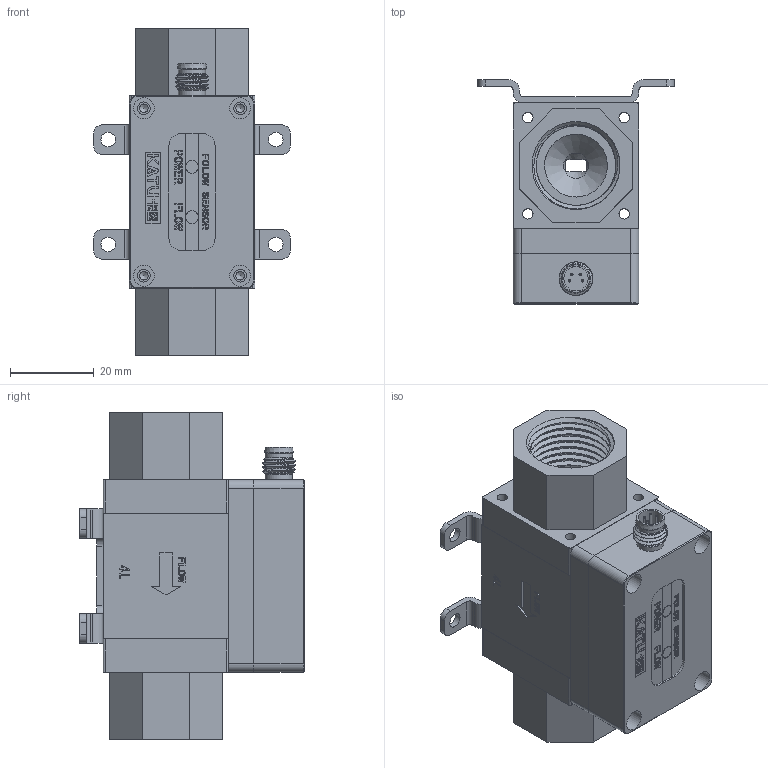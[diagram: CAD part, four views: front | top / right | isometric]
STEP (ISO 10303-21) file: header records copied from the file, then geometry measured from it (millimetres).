
FILE_DESCRIPTION( (''), '2;1');
FILE_NAME( 'QEKJ_4L_R1-2_M12_bracket.step', '2023-12-14T18:03:36+08:00', (''), (''), '', '', '');
FILE_SCHEMA (('AUTOMOTIVE_DESIGN { 1 0 10303 214 3 1 1 1 }'));
Length unit declared in the file: millimetre
Products named in the file (1): QEKJ 4L_R1-2_M12_bracket
Bounding box: 47 x 53.5 x 78 mm (x, y, z)
Volume: 47493.9 mm3; surface area: 38458.4 mm2
Topology: 6 solids, 6 shells, 1160 faces, 3116 edges, 2067 vertices
Faces by surface type: plane 753, cylinder 238, extrusion 117, cone 38, bspline 10, sphere 4
Full cylindrical faces by diameter (mm): 0.6 x4, 1.5 x2, 1.6 x2, 1.7 x2, 2 x6, 2.05 x8, 2.5 x12, 3 x18, 3.5 x5, 4 x3, 5 x4, 5.5 x1, 5.8 x1, 6 x4, 6.5 x2, 7 x1, 7.5 x1, 8.5 x1, 9.5 x2, 12 x2, 12.5 x2, 19 x14
Entity records: 43405 total; most frequent: CARTESIAN_POINT 15515, ORIENTED_EDGE 5764, DIRECTION 5223, EDGE_CURVE 2882, VECTOR 2211, LINE 2094, VERTEX_POINT 1978, AXIS2_PLACEMENT_3D 1506
